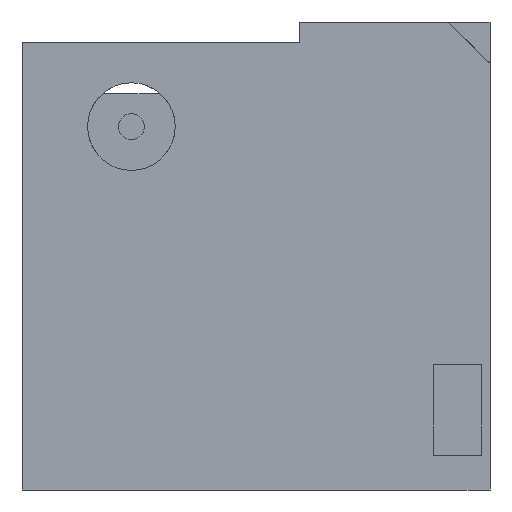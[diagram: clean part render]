
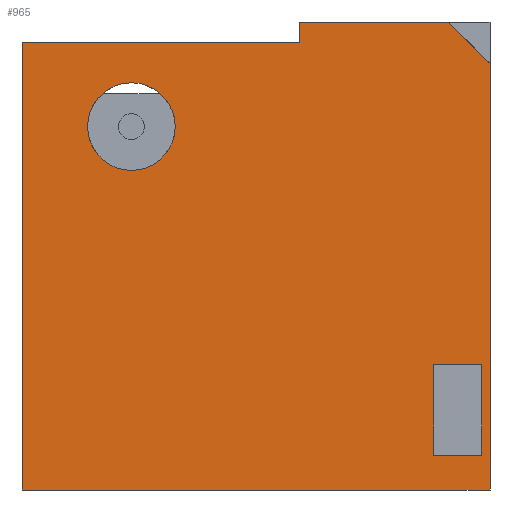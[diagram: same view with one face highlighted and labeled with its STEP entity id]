
A CAD part, left-side view. The second image highlights one B-rep face of the part: STEP entity #965.
In plain terms, the highlighted planar face has unit normal (-1, 0, 0).
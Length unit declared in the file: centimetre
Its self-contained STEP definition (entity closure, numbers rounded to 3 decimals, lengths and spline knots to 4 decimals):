
#8 = ORIENTED_EDGE ( 'NONE', *, *, #1013, .T. ) ;
#67 = DIRECTION ( 'NONE',  ( 0., 0., 1. ) ) ;
#110 = VECTOR ( 'NONE', #1227, 100. ) ;
#112 = VERTEX_POINT ( 'NONE', #1876 ) ;
#129 = CARTESIAN_POINT ( 'NONE',  ( 0., 17.3074, 74.3083 ) ) ;
#153 = PLANE ( 'NONE',  #237 ) ;
#168 = CARTESIAN_POINT ( 'NONE',  ( 0., 1000., 0. ) ) ;
#172 = VERTEX_POINT ( 'NONE', #1502 ) ;
#189 = CARTESIAN_POINT ( 'NONE',  ( 0., 407.7548, 955.5092 ) ) ;
#219 = EDGE_LOOP ( 'NONE', ( #1777, #1006 ) ) ;
#220 = CARTESIAN_POINT ( 'NONE',  ( 0., 120.3425, 74.3083 ) ) ;
#222 = CARTESIAN_POINT ( 'NONE',  ( 0., 88.9815, 1000. ) ) ;
#229 = VECTOR ( 'NONE', #1299, 100. ) ;
#237 = AXIS2_PLACEMENT_3D ( 'NONE', #1604, #1332, #290 ) ;
#276 = EDGE_CURVE ( 'NONE', #1731, #1761, #1133, .T. ) ;
#290 = DIRECTION ( 'NONE',  ( 0., 0., -1. ) ) ;
#322 = ORIENTED_EDGE ( 'NONE', *, *, #1825, .F. ) ;
#326 = LINE ( 'NONE', #1539, #1464 ) ;
#352 = VECTOR ( 'NONE', #1398, 100. ) ;
#371 = VERTEX_POINT ( 'NONE', #522 ) ;
#383 = EDGE_CURVE ( 'NONE', #1761, #1731, #1870, .T. ) ;
#422 = FACE_BOUND ( 'NONE', #1313, .T. ) ;
#426 = CARTESIAN_POINT ( 'NONE',  ( 0., 0., 1000. ) ) ;
#463 = LINE ( 'NONE', #629, #1854 ) ;
#471 = EDGE_CURVE ( 'NONE', #371, #1498, #1861, .T. ) ;
#476 = CARTESIAN_POINT ( 'NONE',  ( 0., 1000., 1000. ) ) ;
#522 = CARTESIAN_POINT ( 'NONE',  ( 0., 88.9815, 1000. ) ) ;
#536 = CARTESIAN_POINT ( 'NONE',  ( 0., 120.3425, 74.3083 ) ) ;
#553 = AXIS2_PLACEMENT_3D ( 'NONE', #960, #675, #67 ) ;
#562 = VERTEX_POINT ( 'NONE', #828 ) ;
#575 = CARTESIAN_POINT ( 'NONE',  ( 0., 17.3074, 268.0671 ) ) ;
#582 = AXIS2_PLACEMENT_3D ( 'NONE', #1074, #806, #1808 ) ;
#611 = CARTESIAN_POINT ( 'NONE',  ( 0., 0., 911.0185 ) ) ;
#623 = DIRECTION ( 'NONE',  ( 0., 0., 1. ) ) ;
#629 = CARTESIAN_POINT ( 'NONE',  ( 0., 17.3074, 74.3083 ) ) ;
#675 = DIRECTION ( 'NONE',  ( -1., 0., 0. ) ) ;
#688 = VECTOR ( 'NONE', #1308, 100. ) ;
#689 = LINE ( 'NONE', #426, #688 ) ;
#705 = ORIENTED_EDGE ( 'NONE', *, *, #1449, .T. ) ;
#718 = DIRECTION ( 'NONE',  ( 0., 1., 0. ) ) ;
#758 = EDGE_LOOP ( 'NONE', ( #1466, #705, #8, #1477, #1815, #897, #322 ) ) ;
#806 = DIRECTION ( 'NONE',  ( -1., 0., 0. ) ) ;
#828 = CARTESIAN_POINT ( 'NONE',  ( 0., 17.3074, 268.0671 ) ) ;
#861 = CARTESIAN_POINT ( 'NONE',  ( 0., 766.2117, 682.875 ) ) ;
#863 = VECTOR ( 'NONE', #1476, 100. ) ;
#893 = CARTESIAN_POINT ( 'NONE',  ( 0., 120.3425, 268.0671 ) ) ;
#897 = ORIENTED_EDGE ( 'NONE', *, *, #471, .F. ) ;
#933 = EDGE_CURVE ( 'NONE', #562, #1452, #1595, .T. ) ;
#948 = LINE ( 'NONE', #476, #110 ) ;
#960 = CARTESIAN_POINT ( 'NONE',  ( 0., 766.2117, 776.5212 ) ) ;
#965 = ADVANCED_FACE ( 'NONE', ( #422, #1301, #1890 ), #153, .F. ) ;
#1006 = ORIENTED_EDGE ( 'NONE', *, *, #276, .F. ) ;
#1013 = EDGE_CURVE ( 'NONE', #172, #1520, #948, .T. ) ;
#1021 = CARTESIAN_POINT ( 'NONE',  ( 0., 17.3074, 74.3083 ) ) ;
#1022 = EDGE_CURVE ( 'NONE', #112, #1461, #326, .T. ) ;
#1037 = LINE ( 'NONE', #168, #1424 ) ;
#1057 = LINE ( 'NONE', #189, #1178 ) ;
#1074 = CARTESIAN_POINT ( 'NONE',  ( 0., 766.2117, 776.5212 ) ) ;
#1110 = CARTESIAN_POINT ( 'NONE',  ( 0., 0., 0. ) ) ;
#1133 = CIRCLE ( 'NONE', #553, 93.6463 ) ;
#1178 = VECTOR ( 'NONE', #1648, 100. ) ;
#1193 = CARTESIAN_POINT ( 'NONE',  ( 0., 407.7548, 1000. ) ) ;
#1227 = DIRECTION ( 'NONE',  ( 0., 0., -1. ) ) ;
#1252 = ORIENTED_EDGE ( 'NONE', *, *, #1872, .F. ) ;
#1263 = DIRECTION ( 'NONE',  ( 0., -0.707, -0.707 ) ) ;
#1271 = EDGE_CURVE ( 'NONE', #1360, #562, #1448, .T. ) ;
#1299 = DIRECTION ( 'NONE',  ( 0., 0., 1. ) ) ;
#1301 = FACE_BOUND ( 'NONE', #219, .T. ) ;
#1308 = DIRECTION ( 'NONE',  ( 0., 0., -1. ) ) ;
#1313 = EDGE_LOOP ( 'NONE', ( #1636, #1252, #1818, #1707 ) ) ;
#1326 = CARTESIAN_POINT ( 'NONE',  ( 0., 1000., 1000. ) ) ;
#1332 = DIRECTION ( 'NONE',  ( 1., 0., 0. ) ) ;
#1340 = CARTESIAN_POINT ( 'NONE',  ( 0., 1000., 0. ) ) ;
#1360 = VERTEX_POINT ( 'NONE', #129 ) ;
#1398 = DIRECTION ( 'NONE',  ( 0., 0., -1. ) ) ;
#1418 = LINE ( 'NONE', #536, #352 ) ;
#1424 = VECTOR ( 'NONE', #1465, 100. ) ;
#1443 = VECTOR ( 'NONE', #1263, 100. ) ;
#1448 = LINE ( 'NONE', #1021, #229 ) ;
#1449 = EDGE_CURVE ( 'NONE', #112, #172, #1057, .T. ) ;
#1452 = VERTEX_POINT ( 'NONE', #893 ) ;
#1461 = VERTEX_POINT ( 'NONE', #1193 ) ;
#1464 = VECTOR ( 'NONE', #623, 100. ) ;
#1465 = DIRECTION ( 'NONE',  ( 0., -1., 0. ) ) ;
#1466 = ORIENTED_EDGE ( 'NONE', *, *, #1022, .F. ) ;
#1476 = DIRECTION ( 'NONE',  ( 0., -1., 0. ) ) ;
#1477 = ORIENTED_EDGE ( 'NONE', *, *, #1735, .T. ) ;
#1498 = VERTEX_POINT ( 'NONE', #611 ) ;
#1502 = CARTESIAN_POINT ( 'NONE',  ( 0., 1000., 955.5092 ) ) ;
#1520 = VERTEX_POINT ( 'NONE', #1340 ) ;
#1539 = CARTESIAN_POINT ( 'NONE',  ( 0., 407.7548, 955.5092 ) ) ;
#1576 = VERTEX_POINT ( 'NONE', #220 ) ;
#1595 = LINE ( 'NONE', #575, #1679 ) ;
#1599 = VERTEX_POINT ( 'NONE', #1110 ) ;
#1604 = CARTESIAN_POINT ( 'NONE',  ( 0., 1000., 1000. ) ) ;
#1636 = ORIENTED_EDGE ( 'NONE', *, *, #1271, .F. ) ;
#1648 = DIRECTION ( 'NONE',  ( 0., 1., 0. ) ) ;
#1657 = DIRECTION ( 'NONE',  ( 0., -1., 0. ) ) ;
#1679 = VECTOR ( 'NONE', #718, 100. ) ;
#1707 = ORIENTED_EDGE ( 'NONE', *, *, #933, .F. ) ;
#1711 = EDGE_CURVE ( 'NONE', #1452, #1576, #1418, .T. ) ;
#1723 = EDGE_CURVE ( 'NONE', #1498, #1599, #689, .T. ) ;
#1731 = VERTEX_POINT ( 'NONE', #861 ) ;
#1735 = EDGE_CURVE ( 'NONE', #1520, #1599, #1037, .T. ) ;
#1737 = CARTESIAN_POINT ( 'NONE',  ( 0., 766.2117, 870.1675 ) ) ;
#1755 = LINE ( 'NONE', #1326, #863 ) ;
#1761 = VERTEX_POINT ( 'NONE', #1737 ) ;
#1777 = ORIENTED_EDGE ( 'NONE', *, *, #383, .F. ) ;
#1808 = DIRECTION ( 'NONE',  ( 0., 0., 1. ) ) ;
#1815 = ORIENTED_EDGE ( 'NONE', *, *, #1723, .F. ) ;
#1818 = ORIENTED_EDGE ( 'NONE', *, *, #1711, .F. ) ;
#1825 = EDGE_CURVE ( 'NONE', #1461, #371, #1755, .T. ) ;
#1854 = VECTOR ( 'NONE', #1657, 100. ) ;
#1861 = LINE ( 'NONE', #222, #1443 ) ;
#1870 = CIRCLE ( 'NONE', #582, 93.6463 ) ;
#1872 = EDGE_CURVE ( 'NONE', #1576, #1360, #463, .T. ) ;
#1876 = CARTESIAN_POINT ( 'NONE',  ( 0., 407.7548, 955.5092 ) ) ;
#1890 = FACE_OUTER_BOUND ( 'NONE', #758, .T. ) ;
